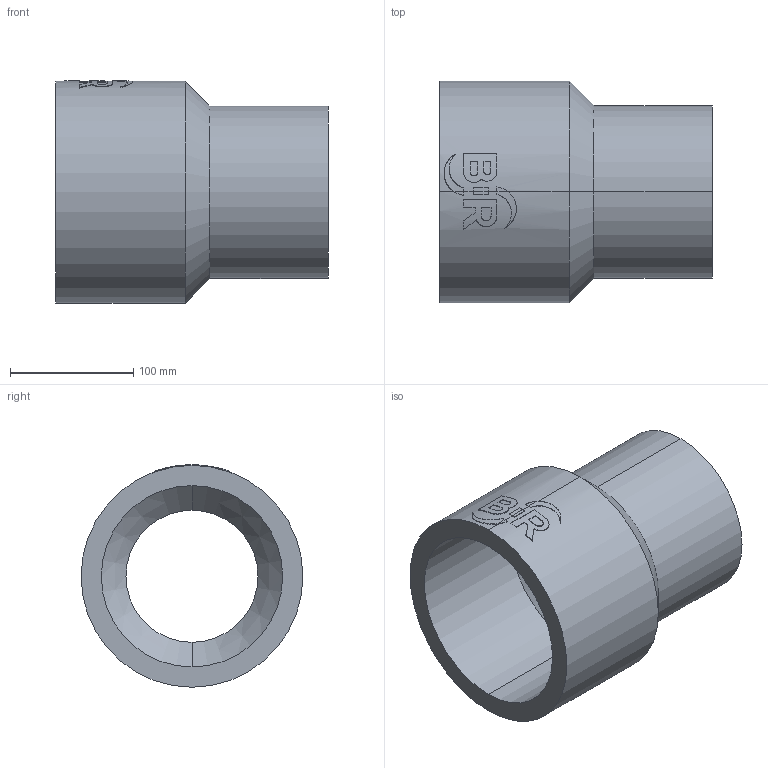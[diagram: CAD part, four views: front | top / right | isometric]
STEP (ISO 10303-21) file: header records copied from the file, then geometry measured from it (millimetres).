
FILE_DESCRIPTION (( 'STEP AP214' ), '1' );
FILE_NAME ('2323181635.STEP', '2018-07-20T09:17:33', ( '' ), ( '' ), 'SwSTEP 2.0', 'SolidWorks 2017', '' );
FILE_SCHEMA (( 'AUTOMOTIVE_DESIGN' ));
Length unit declared in the file: millimetre
Products named in the file (1): 2323181635
Bounding box: 221 x 180 x 180.46 mm (x, y, z)
Volume: 1699243.9 mm3; surface area: 222194.5 mm2
Topology: 1 solids, 1 shells, 63 faces, 160 edges, 104 vertices
Faces by surface type: cylinder 31, plane 28, cone 4
Entity records: 3273 total; most frequent: CARTESIAN_POINT 1064, ORIENTED_EDGE 320, DIRECTION 296, EDGE_CURVE 160, AXIS2_PLACEMENT_3D 112, VERTEX_POINT 104, LINE 72, VECTOR 72
